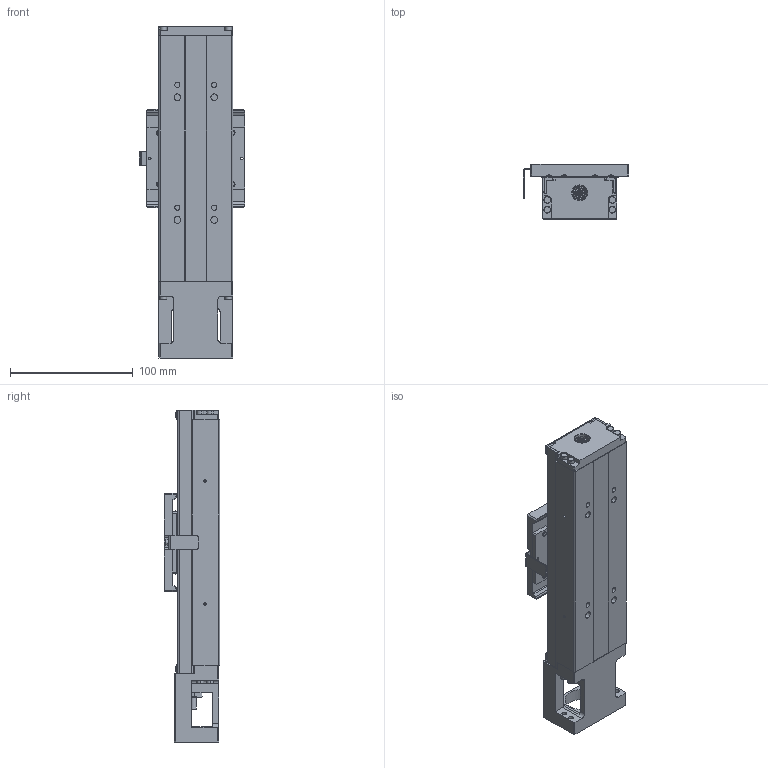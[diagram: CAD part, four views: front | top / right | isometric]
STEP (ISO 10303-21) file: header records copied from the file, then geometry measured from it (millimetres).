
FILE_DESCRIPTION (( 'STEP AP203' ), '1' );
FILE_NAME ('GKAC3060-100-12N-P10-CXXXX-網站用圖.STEP', '2023-04-18T06:09:45', ( '' ), ( '' ), 'SwSTEP 2.0', 'SolidWorks 2019', '' );
FILE_SCHEMA (( 'CONFIG_CONTROL_DESIGN' ));
Length unit declared in the file: millimetre
Products named in the file (3): GKAC3060-100-12N-P10-CXXXX-網站用圖; Group2^GKAC3060-100-12N-P10-CXXXX_defeature-網站用圖_GMT; Group1^GKAC3060-100-12N-P10-CXXXX_defeature-網站用圖_GMT
Assembly tree (2 placements, depth 2):
  GKAC3060-100-12N-P10-CXXXX-網站用圖
    Group1^GKAC3060-100-12N-P10-CXXXX_defeature-網站用圖_GMT
    Group2^GKAC3060-100-12N-P10-CXXXX_defeature-網站用圖_GMT
Bounding box: 86.2 x 45 x 270.5 mm (x, y, z)
Volume: 371030.3 mm3; surface area: 149505.3 mm2
Topology: 3 solids, 9 shells, 1783 faces, 4793 edges, 2984 vertices
Faces by surface type: plane 818, cylinder 504, torus 199, cone 192, sphere 54, bspline 16
Entity records: 57305 total; most frequent: CARTESIAN_POINT 11987, DIRECTION 9864, ORIENTED_EDGE 9388, EDGE_CURVE 4694, AXIS2_PLACEMENT_3D 3790, VERTEX_POINT 2961, VECTOR 2284, LINE 2284
